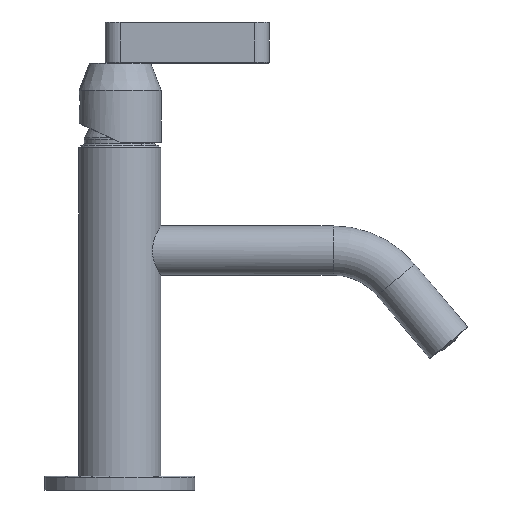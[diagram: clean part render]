
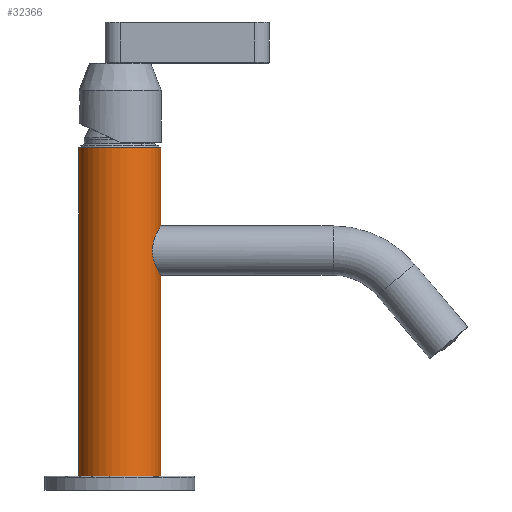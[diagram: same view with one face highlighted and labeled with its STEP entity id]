
A CAD part, front view. The second image highlights one B-rep face of the part: STEP entity #32366.
In plain terms, the highlighted cylindrical face has radius 15 mm (diameter 30 mm), a partial arc.
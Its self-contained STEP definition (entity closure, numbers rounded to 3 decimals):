
#448 = CARTESIAN_POINT ( 'NONE',  ( 15., 0., -10. ) ) ;
#614 = CARTESIAN_POINT ( 'NONE',  ( 14.909, -1.653, 70.618 ) ) ;
#993 = CARTESIAN_POINT ( 'NONE',  ( 14.882, -1.884, 74.151 ) ) ;
#1184 = CARTESIAN_POINT ( 'NONE',  ( 15., 0., 75. ) ) ;
#1363 = CARTESIAN_POINT ( 'NONE',  ( 14.923, -1.525, 74.487 ) ) ;
#1413 = CARTESIAN_POINT ( 'NONE',  ( 15., 0., 75. ) ) ;
#1895 = CARTESIAN_POINT ( 'NONE',  ( 0., 0., 110. ) ) ;
#2301 = LINE ( 'NONE', #11313, #31526 ) ;
#3530 = CARTESIAN_POINT ( 'NONE',  ( 14.793, -2.484, 72.173 ) ) ;
#3922 = CARTESIAN_POINT ( 'NONE',  ( 14.793, -2.484, 72.828 ) ) ;
#4108 = CARTESIAN_POINT ( 'NONE',  ( 14.868, -1.988, 74.025 ) ) ;
#4232 = VERTEX_POINT ( 'NONE', #19099 ) ;
#4236 = VERTEX_POINT ( 'NONE', #5819 ) ;
#4592 = ORIENTED_EDGE ( 'NONE', *, *, #24836, .F. ) ;
#5012 = CARTESIAN_POINT ( 'NONE',  ( -15., 0., -10. ) ) ;
#5173 = ORIENTED_EDGE ( 'NONE', *, *, #37966, .F. ) ;
#5819 = CARTESIAN_POINT ( 'NONE',  ( -15., 0., 110. ) ) ;
#6860 = CARTESIAN_POINT ( 'NONE',  ( 14.804, -2.42, 71.85 ) ) ;
#6963 = DIRECTION ( 'NONE',  ( -1., 0., 0. ) ) ;
#7252 = CARTESIAN_POINT ( 'NONE',  ( 14.909, -1.651, 74.384 ) ) ;
#8151 = FACE_OUTER_BOUND ( 'NONE', #21915, .T. ) ;
#9017 = LINE ( 'NONE', #35483, #17724 ) ;
#9354 = VERTEX_POINT ( 'NONE', #31545 ) ;
#9419 = CARTESIAN_POINT ( 'NONE',  ( 14.843, -2.169, 73.754 ) ) ;
#9814 = CARTESIAN_POINT ( 'NONE',  ( 14.868, -1.998, 70.963 ) ) ;
#10000 = CARTESIAN_POINT ( 'NONE',  ( 15., 0., 70. ) ) ;
#10096 = EDGE_CURVE ( 'NONE', #4232, #25864, #9017, .T. ) ;
#10187 = DIRECTION ( 'NONE',  ( 1., 0., 0. ) ) ;
#10885 = VECTOR ( 'NONE', #24321, 1000. ) ;
#11313 = CARTESIAN_POINT ( 'NONE',  ( -15., 0., 110. ) ) ;
#11348 = EDGE_CURVE ( 'NONE', #9354, #25864, #12120, .T. ) ;
#11778 = DIRECTION ( 'NONE',  ( 0., 0., -1. ) ) ;
#12120 = B_SPLINE_CURVE_WITH_KNOTS ( 'NONE', 3,
 ( #10000, #22147, #21571, #18824, #27638, #21958, #30590, #13319, #614, #9814, #12750, #36652, #6860, #3530, #33917, #19017, #3922, #33340, #25283, #30978, #9419, #4108, #993, #7252, #1363, #28216, #18432, #13136, #12942, #15882, #15501, #1184 ),
 .UNSPECIFIED., .F., .F.,
 ( 4, 2, 2, 2, 2, 2, 2, 2, 2, 2, 2, 2, 2, 2, 2, 4 ),
 ( 0., 0., 0.001, 0.001, 0.002, 0.003, 0.003, 0.004, 0.004, 0.005, 0.005, 0.006, 0.006, 0.007, 0.007, 0.008 ),
 .UNSPECIFIED. ) ;
#12475 = AXIS2_PLACEMENT_3D ( 'NONE', #1895, #19744, #26000 ) ;
#12750 = CARTESIAN_POINT ( 'NONE',  ( 14.841, -2.184, 71.241 ) ) ;
#12942 = CARTESIAN_POINT ( 'NONE',  ( 14.987, -0.65, 74.92 ) ) ;
#13136 = CARTESIAN_POINT ( 'NONE',  ( 14.979, -0.806, 74.872 ) ) ;
#13319 = CARTESIAN_POINT ( 'NONE',  ( 14.923, -1.525, 70.512 ) ) ;
#14903 = ORIENTED_EDGE ( 'NONE', *, *, #21052, .F. ) ;
#15501 = CARTESIAN_POINT ( 'NONE',  ( 15., -0.163, 75. ) ) ;
#15882 = CARTESIAN_POINT ( 'NONE',  ( 14.997, -0.329, 74.984 ) ) ;
#17337 = EDGE_CURVE ( 'NONE', #4236, #27963, #2301, .T. ) ;
#17596 = ORIENTED_EDGE ( 'NONE', *, *, #11348, .T. ) ;
#17724 = VECTOR ( 'NONE', #11778, 1000. ) ;
#18432 = CARTESIAN_POINT ( 'NONE',  ( 14.96, -1.109, 74.747 ) ) ;
#18824 = CARTESIAN_POINT ( 'NONE',  ( 14.987, -0.648, 70.08 ) ) ;
#19017 = CARTESIAN_POINT ( 'NONE',  ( 14.79, -2.5, 72.662 ) ) ;
#19099 = CARTESIAN_POINT ( 'NONE',  ( 15., 0., 110. ) ) ;
#19744 = DIRECTION ( 'NONE',  ( 0., 0., -1. ) ) ;
#20232 = ORIENTED_EDGE ( 'NONE', *, *, #17337, .T. ) ;
#21052 = EDGE_CURVE ( 'NONE', #9354, #30088, #27441, .T. ) ;
#21571 = CARTESIAN_POINT ( 'NONE',  ( 14.997, -0.328, 70.016 ) ) ;
#21762 = CARTESIAN_POINT ( 'NONE',  ( 15., 0., 110. ) ) ;
#21884 = CARTESIAN_POINT ( 'NONE',  ( 0., 0., -10. ) ) ;
#21915 = EDGE_LOOP ( 'NONE', ( #22898, #5173, #20232, #4592, #14903, #17596 ) ) ;
#21958 = CARTESIAN_POINT ( 'NONE',  ( 14.96, -1.11, 70.254 ) ) ;
#22147 = CARTESIAN_POINT ( 'NONE',  ( 15., -0.165, 70. ) ) ;
#22898 = ORIENTED_EDGE ( 'NONE', *, *, #10096, .F. ) ;
#24321 = DIRECTION ( 'NONE',  ( 0., 0., -1. ) ) ;
#24332 = DIRECTION ( 'NONE',  ( 0., 0., 1. ) ) ;
#24836 = EDGE_CURVE ( 'NONE', #30088, #27963, #35603, .T. ) ;
#25283 = CARTESIAN_POINT ( 'NONE',  ( 14.811, -2.372, 73.305 ) ) ;
#25618 = CYLINDRICAL_SURFACE ( 'NONE', #12475, 15. ) ;
#25864 = VERTEX_POINT ( 'NONE', #1413 ) ;
#26000 = DIRECTION ( 'NONE',  ( -1., 0., 0. ) ) ;
#26856 = AXIS2_PLACEMENT_3D ( 'NONE', #21884, #33842, #6963 ) ;
#27441 = LINE ( 'NONE', #21762, #10885 ) ;
#27638 = CARTESIAN_POINT ( 'NONE',  ( 14.979, -0.807, 70.128 ) ) ;
#27963 = VERTEX_POINT ( 'NONE', #5012 ) ;
#28216 = CARTESIAN_POINT ( 'NONE',  ( 14.948, -1.255, 74.668 ) ) ;
#30088 = VERTEX_POINT ( 'NONE', #448 ) ;
#30590 = CARTESIAN_POINT ( 'NONE',  ( 14.948, -1.253, 70.331 ) ) ;
#30978 = CARTESIAN_POINT ( 'NONE',  ( 14.831, -2.247, 73.608 ) ) ;
#30980 = CARTESIAN_POINT ( 'NONE',  ( 0., 0., 110. ) ) ;
#31523 = CIRCLE ( 'NONE', #36480, 15. ) ;
#31526 = VECTOR ( 'NONE', #32292, 1000. ) ;
#31545 = CARTESIAN_POINT ( 'NONE',  ( 15., 0., 70. ) ) ;
#32292 = DIRECTION ( 'NONE',  ( 0., 0., -1. ) ) ;
#32366 = ADVANCED_FACE ( 'NONE', ( #8151 ), #25618, .T. ) ;
#33340 = CARTESIAN_POINT ( 'NONE',  ( 14.804, -2.42, 73.149 ) ) ;
#33842 = DIRECTION ( 'NONE',  ( 0., 0., -1. ) ) ;
#33917 = CARTESIAN_POINT ( 'NONE',  ( 14.79, -2.5, 72.336 ) ) ;
#35483 = CARTESIAN_POINT ( 'NONE',  ( 15., 0., 110. ) ) ;
#35603 = CIRCLE ( 'NONE', #26856, 15. ) ;
#36480 = AXIS2_PLACEMENT_3D ( 'NONE', #30980, #24332, #10187 ) ;
#36652 = CARTESIAN_POINT ( 'NONE',  ( 14.811, -2.372, 71.692 ) ) ;
#37966 = EDGE_CURVE ( 'NONE', #4236, #4232, #31523, .T. ) ;
